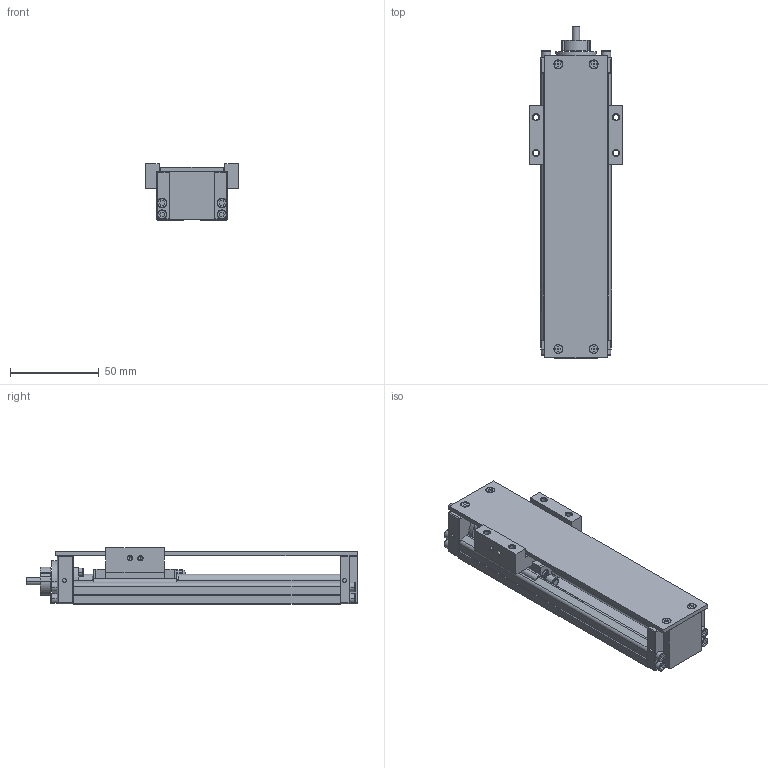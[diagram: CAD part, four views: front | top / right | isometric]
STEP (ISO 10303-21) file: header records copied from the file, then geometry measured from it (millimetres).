
FILE_DESCRIPTION(('no description'),'unknown implementation level');
FILE_NAME('KK4001P150A1H0C00_FILE_5.stp',' ',('HIWIN GmbH'),('CADClick - KiM GmbH - www.kimweb.de'),'unknown preprocess','ACIS','unknown authorization');
FILE_SCHEMA(('automotive_design'));
Length unit declared in the file: millimetre
Products named in the file (2): KK40_FILE; KK4001P150A1H0C00_FILE
Bounding box: 52 x 186.5 x 32 mm (x, y, z)
Volume: 116873.6 mm3; surface area: 56287.6 mm2
Topology: 2 solids, 18 shells, 929 faces, 2413 edges, 1540 vertices
Faces by surface type: plane 544, cylinder 285, cone 56, torus 42, sphere 2
Entity records: 56786 total; most frequent: CARTESIAN_POINT 6332, DIRECTION 4922, STYLED_ITEM 4876, PRESENTATION_STYLE_ASSIGNMENT 4876, COLOUR_RGB 4876, ORIENTED_EDGE 4810, EDGE_CURVE 2405, CURVE_STYLE 2405
